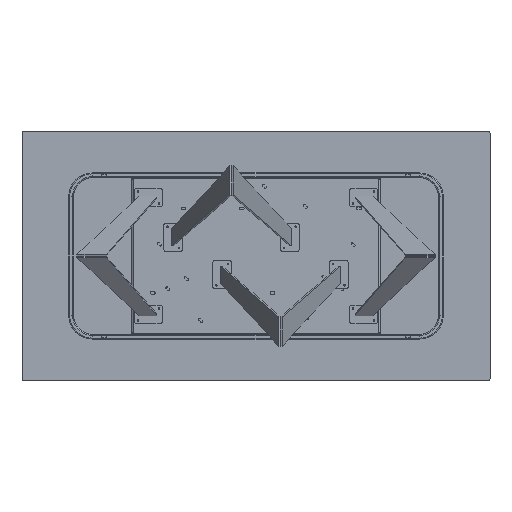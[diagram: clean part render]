
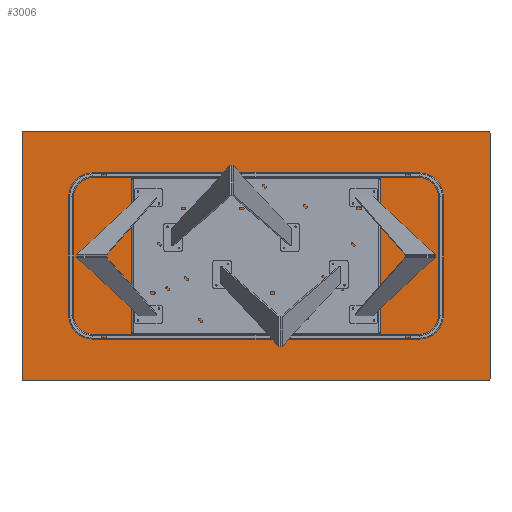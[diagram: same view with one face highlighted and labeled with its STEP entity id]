
A CAD part, front view. The second image highlights one B-rep face of the part: STEP entity #3006.
In plain terms, the highlighted planar face has unit normal (0, -1, 0).
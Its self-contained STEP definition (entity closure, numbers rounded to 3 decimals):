
#32 = VERTEX_POINT ( 'NONE', #6433 ) ;
#352 = AXIS2_PLACEMENT_3D ( 'NONE', #4091, #13401, #1719 ) ;
#526 = CARTESIAN_POINT ( 'NONE',  ( 995., 0., 525. ) ) ;
#631 = ORIENTED_EDGE ( 'NONE', *, *, #8368, .T. ) ;
#662 = CARTESIAN_POINT ( 'NONE',  ( 1000., 0., -525. ) ) ;
#863 = DIRECTION ( 'NONE',  ( 0., -1., 0. ) ) ;
#1671 = EDGE_CURVE ( 'NONE', #9877, #32, #15015, .T. ) ;
#1719 = DIRECTION ( 'NONE',  ( 0., 0., 1. ) ) ;
#1807 = CARTESIAN_POINT ( 'NONE',  ( -1000., 0., 530. ) ) ;
#1851 = ORIENTED_EDGE ( 'NONE', *, *, #1671, .F. ) ;
#2478 = CARTESIAN_POINT ( 'NONE',  ( 1000., 0., -530. ) ) ;
#2618 = VECTOR ( 'NONE', #5988, 1000. ) ;
#2757 = EDGE_CURVE ( 'NONE', #11360, #2801, #3016, .T. ) ;
#2801 = VERTEX_POINT ( 'NONE', #662 ) ;
#2828 = CARTESIAN_POINT ( 'NONE',  ( 995., 0., 530. ) ) ;
#3006 = ADVANCED_FACE ( 'NONE', ( #10588 ), #10838, .F. ) ;
#3016 = CIRCLE ( 'NONE', #12739, 5. ) ;
#3238 = DIRECTION ( 'NONE',  ( 0., -1., 0. ) ) ;
#4071 = EDGE_CURVE ( 'NONE', #8598, #11997, #16527, .T. ) ;
#4091 = CARTESIAN_POINT ( 'NONE',  ( -995., 0., -525. ) ) ;
#4179 = CARTESIAN_POINT ( 'NONE',  ( -995., 0., 530. ) ) ;
#4235 = DIRECTION ( 'NONE',  ( 0., 0., 1. ) ) ;
#4253 = AXIS2_PLACEMENT_3D ( 'NONE', #13755, #3238, #9588 ) ;
#5332 = EDGE_LOOP ( 'NONE', ( #12871, #631, #10640, #10121, #1851, #12648, #16624, #13766 ) ) ;
#5763 = VECTOR ( 'NONE', #12133, 1000. ) ;
#5852 = AXIS2_PLACEMENT_3D ( 'NONE', #526, #863, #7146 ) ;
#5988 = DIRECTION ( 'NONE',  ( 1., 0., 0. ) ) ;
#6433 = CARTESIAN_POINT ( 'NONE',  ( -1000., 0., 525. ) ) ;
#6450 = EDGE_CURVE ( 'NONE', #7679, #2801, #14402, .T. ) ;
#6868 = EDGE_CURVE ( 'NONE', #9877, #8612, #7864, .T. ) ;
#7146 = DIRECTION ( 'NONE',  ( 0., 0., 1. ) ) ;
#7679 = VERTEX_POINT ( 'NONE', #11622 ) ;
#7864 = CIRCLE ( 'NONE', #352, 5. ) ;
#8368 = EDGE_CURVE ( 'NONE', #7679, #11997, #13866, .T. ) ;
#8592 = DIRECTION ( 'NONE',  ( 0., 0., 1. ) ) ;
#8598 = VERTEX_POINT ( 'NONE', #4179 ) ;
#8612 = VERTEX_POINT ( 'NONE', #15936 ) ;
#9069 = EDGE_CURVE ( 'NONE', #11360, #8612, #12296, .T. ) ;
#9197 = CARTESIAN_POINT ( 'NONE',  ( 0., 0., 0. ) ) ;
#9588 = DIRECTION ( 'NONE',  ( 0., 0., 1. ) ) ;
#9689 = CARTESIAN_POINT ( 'NONE',  ( -1000., 0., -530. ) ) ;
#9877 = VERTEX_POINT ( 'NONE', #14983 ) ;
#10121 = ORIENTED_EDGE ( 'NONE', *, *, #17063, .T. ) ;
#10588 = FACE_OUTER_BOUND ( 'NONE', #5332, .T. ) ;
#10640 = ORIENTED_EDGE ( 'NONE', *, *, #4071, .F. ) ;
#10821 = DIRECTION ( 'NONE',  ( -1., 0., 0. ) ) ;
#10838 = PLANE ( 'NONE',  #16400 ) ;
#11289 = DIRECTION ( 'NONE',  ( 0., -1., 0. ) ) ;
#11360 = VERTEX_POINT ( 'NONE', #14988 ) ;
#11622 = CARTESIAN_POINT ( 'NONE',  ( 1000., 0., 525. ) ) ;
#11757 = CIRCLE ( 'NONE', #4253, 5. ) ;
#11819 = DIRECTION ( 'NONE',  ( 0., 1., 0. ) ) ;
#11997 = VERTEX_POINT ( 'NONE', #2828 ) ;
#12133 = DIRECTION ( 'NONE',  ( 0., 0., 1. ) ) ;
#12296 = LINE ( 'NONE', #9689, #15734 ) ;
#12583 = VECTOR ( 'NONE', #16940, 1000. ) ;
#12648 = ORIENTED_EDGE ( 'NONE', *, *, #6868, .T. ) ;
#12739 = AXIS2_PLACEMENT_3D ( 'NONE', #13722, #11289, #8592 ) ;
#12871 = ORIENTED_EDGE ( 'NONE', *, *, #6450, .F. ) ;
#13401 = DIRECTION ( 'NONE',  ( 0., -1., 0. ) ) ;
#13722 = CARTESIAN_POINT ( 'NONE',  ( 995., 0., -525. ) ) ;
#13755 = CARTESIAN_POINT ( 'NONE',  ( -995., 0., 525. ) ) ;
#13766 = ORIENTED_EDGE ( 'NONE', *, *, #2757, .T. ) ;
#13866 = CIRCLE ( 'NONE', #5852, 5. ) ;
#14402 = LINE ( 'NONE', #2478, #12583 ) ;
#14838 = CARTESIAN_POINT ( 'NONE',  ( -1000., 0., -530. ) ) ;
#14983 = CARTESIAN_POINT ( 'NONE',  ( -1000., 0., -525. ) ) ;
#14988 = CARTESIAN_POINT ( 'NONE',  ( 995., 0., -530. ) ) ;
#15015 = LINE ( 'NONE', #14838, #5763 ) ;
#15734 = VECTOR ( 'NONE', #10821, 1000. ) ;
#15936 = CARTESIAN_POINT ( 'NONE',  ( -995., 0., -530. ) ) ;
#16400 = AXIS2_PLACEMENT_3D ( 'NONE', #9197, #11819, #4235 ) ;
#16527 = LINE ( 'NONE', #1807, #2618 ) ;
#16624 = ORIENTED_EDGE ( 'NONE', *, *, #9069, .F. ) ;
#16940 = DIRECTION ( 'NONE',  ( 0., 0., -1. ) ) ;
#17063 = EDGE_CURVE ( 'NONE', #8598, #32, #11757, .T. ) ;
